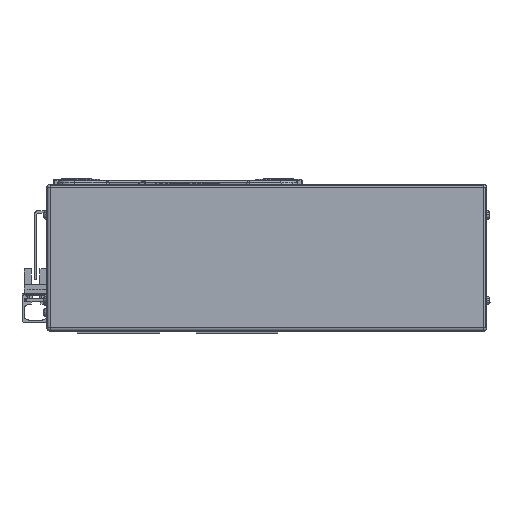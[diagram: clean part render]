
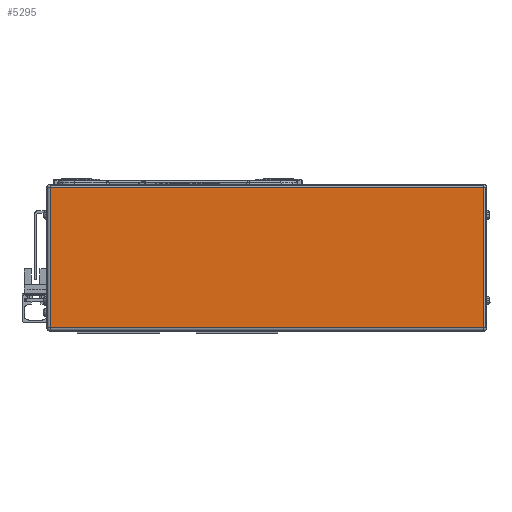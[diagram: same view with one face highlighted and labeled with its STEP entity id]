
A CAD part, left-side view. The second image highlights one B-rep face of the part: STEP entity #5295.
In plain terms, the highlighted planar face has unit normal (-1, 0, 0).
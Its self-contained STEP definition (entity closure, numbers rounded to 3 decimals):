
#5295=ADVANCED_FACE('',(#11896),#11897,.T.);
#11896=FACE_OUTER_BOUND('',#21083,.T.);
#11897=PLANE('',#21084);
#21083=EDGE_LOOP('',(#36099,#36100,#36101,#36102));
#21084=AXIS2_PLACEMENT_3D('',#36103,#36104,#36105);
#36099=ORIENTED_EDGE('',*,*,#50083,.F.);
#36100=ORIENTED_EDGE('',*,*,#54373,.F.);
#36101=ORIENTED_EDGE('',*,*,#54652,.F.);
#36102=ORIENTED_EDGE('',*,*,#54653,.F.);
#36103=CARTESIAN_POINT('',(-45.,-180.5,0.));
#36104=DIRECTION('',(-1.0,0.,0.));
#36105=DIRECTION('',(0.,0.,1.0));
#50083=EDGE_CURVE('',#59860,#59862,#59863,.T.);
#54373=EDGE_CURVE('',#66755,#59860,#66757,.T.);
#54652=EDGE_CURVE('',#67157,#66755,#67158,.T.);
#54653=EDGE_CURVE('',#59862,#67157,#67159,.T.);
#59860=VERTEX_POINT('',#73822);
#59862=VERTEX_POINT('',#73824);
#59863=LINE('',#73825,#73826);
#66755=VERTEX_POINT('',#83139);
#66757=LINE('',#83141,#83142);
#67157=VERTEX_POINT('',#83708);
#67158=LINE('',#83709,#83710);
#67159=LINE('',#83711,#83712);
#73822=CARTESIAN_POINT('',(-45.,-178.5,41.));
#73824=CARTESIAN_POINT('',(-45.,-178.5,-41.));
#73825=CARTESIAN_POINT('',(-45.,-178.5,0.));
#73826=VECTOR('',#90995,10.0);
#83139=CARTESIAN_POINT('',(-45.,74.5,41.));
#83141=CARTESIAN_POINT('',(-45.,-180.5,41.));
#83142=VECTOR('',#96914,10.0);
#83708=CARTESIAN_POINT('',(-45.,74.5,-41.));
#83709=CARTESIAN_POINT('',(-45.,74.5,0.));
#83710=VECTOR('',#97260,10.0);
#83711=CARTESIAN_POINT('',(-45.,-180.5,-41.));
#83712=VECTOR('',#97261,10.0);
#90995=DIRECTION('',(0.,0.,-1.0));
#96914=DIRECTION('',(0.,-1.0,0.));
#97260=DIRECTION('',(0.,0.,1.0));
#97261=DIRECTION('',(0.,1.0,0.));
